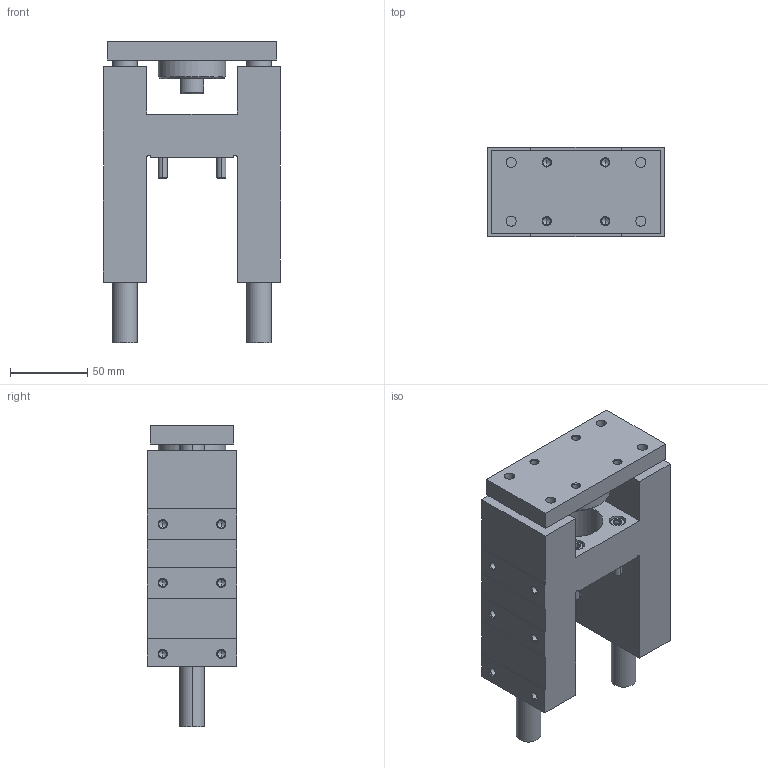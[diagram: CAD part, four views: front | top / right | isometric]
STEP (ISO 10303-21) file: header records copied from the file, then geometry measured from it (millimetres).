
FILE_DESCRIPTION (( 'STEP AP203' ), '1' );
FILE_NAME ('GB40-25.STEP', '2020-04-24T11:15:17', ( '' ), ( '' ), 'SwSTEP 2.0', 'SolidWorks 2019', '' );
FILE_SCHEMA (( 'CONFIG_CONTROL_DESIGN' ));
Length unit declared in the file: millimetre
Products named in the file (1): GB40-25
Bounding box: 115 x 58 x 195 mm (x, y, z)
Volume: 621663.1 mm3; surface area: 124986.2 mm2
Topology: 6 solids, 6 shells, 357 faces, 802 edges, 456 vertices
Faces by surface type: cone 142, plane 113, cylinder 102
Entity records: 10283 total; most frequent: CARTESIAN_POINT 2222, DIRECTION 1796, ORIENTED_EDGE 1532, EDGE_CURVE 766, AXIS2_PLACEMENT_3D 700, VERTEX_POINT 456, EDGE_LOOP 422, VECTOR 396
